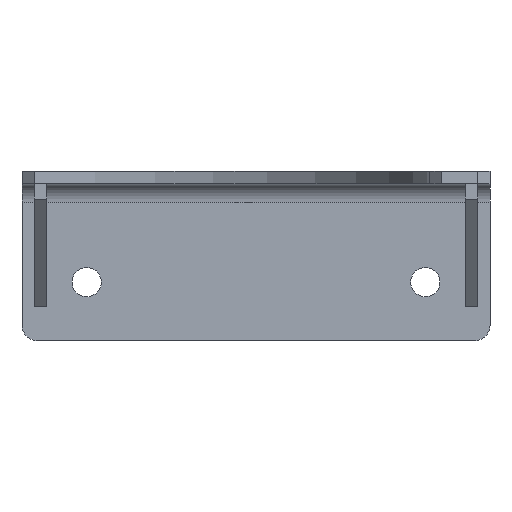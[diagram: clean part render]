
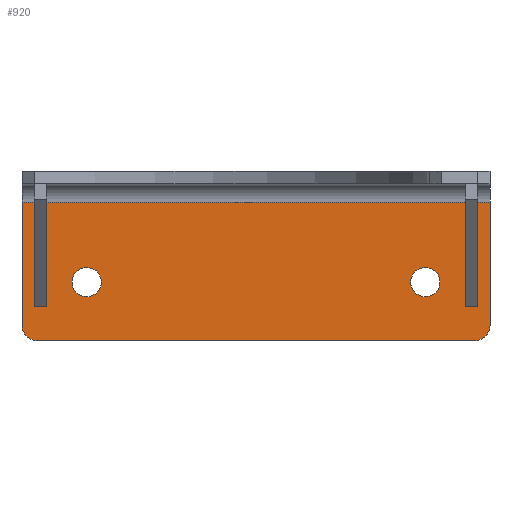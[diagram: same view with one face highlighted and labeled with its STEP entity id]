
A CAD part, front view. The second image highlights one B-rep face of the part: STEP entity #920.
In plain terms, the highlighted planar face has unit normal (0, -1, 0).
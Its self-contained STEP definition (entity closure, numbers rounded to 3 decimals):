
#156=FACE_BOUND('',#246,.T.);
#157=FACE_BOUND('',#247,.T.);
#168=PLANE('',#996);
#200=FACE_OUTER_BOUND('',#245,.T.);
#245=EDGE_LOOP('',(#705,#706,#707,#708,#709,#710));
#246=EDGE_LOOP('',(#711));
#247=EDGE_LOOP('',(#712));
#298=LINE('',#1333,#383);
#304=LINE('',#1355,#389);
#306=LINE('',#1363,#391);
#307=LINE('',#1366,#392);
#383=VECTOR('',#1080,10.);
#389=VECTOR('',#1100,10.);
#391=VECTOR('',#1108,10.);
#392=VECTOR('',#1111,10.);
#472=CIRCLE('',#997,5.);
#473=CIRCLE('',#998,5.);
#474=CIRCLE('',#999,4.75);
#475=CIRCLE('',#1000,4.75);
#501=VERTEX_POINT('',#1330);
#502=VERTEX_POINT('',#1332);
#511=VERTEX_POINT('',#1354);
#513=VERTEX_POINT('',#1360);
#514=VERTEX_POINT('',#1362);
#515=VERTEX_POINT('',#1364);
#516=VERTEX_POINT('',#1367);
#517=VERTEX_POINT('',#1369);
#576=EDGE_CURVE('',#501,#502,#298,.T.);
#587=EDGE_CURVE('',#502,#511,#304,.T.);
#590=EDGE_CURVE('',#513,#501,#472,.T.);
#591=EDGE_CURVE('',#514,#513,#306,.T.);
#592=EDGE_CURVE('',#515,#514,#473,.T.);
#593=EDGE_CURVE('',#511,#515,#307,.T.);
#594=EDGE_CURVE('',#516,#516,#474,.T.);
#595=EDGE_CURVE('',#517,#517,#475,.T.);
#705=ORIENTED_EDGE('',*,*,#587,.F.);
#706=ORIENTED_EDGE('',*,*,#576,.F.);
#707=ORIENTED_EDGE('',*,*,#590,.F.);
#708=ORIENTED_EDGE('',*,*,#591,.F.);
#709=ORIENTED_EDGE('',*,*,#592,.F.);
#710=ORIENTED_EDGE('',*,*,#593,.F.);
#711=ORIENTED_EDGE('',*,*,#594,.T.);
#712=ORIENTED_EDGE('',*,*,#595,.T.);
#920=ADVANCED_FACE('',(#200,#156,#157),#168,.F.);
#996=AXIS2_PLACEMENT_3D('',#1359,#1104,#1105);
#997=AXIS2_PLACEMENT_3D('',#1361,#1106,#1107);
#998=AXIS2_PLACEMENT_3D('',#1365,#1109,#1110);
#999=AXIS2_PLACEMENT_3D('',#1368,#1112,#1113);
#1000=AXIS2_PLACEMENT_3D('',#1370,#1114,#1115);
#1080=DIRECTION('',(0.,0.,1.));
#1100=DIRECTION('',(1.,0.,0.));
#1104=DIRECTION('center_axis',(0.,1.,0.));
#1105=DIRECTION('ref_axis',(0.,0.,1.));
#1106=DIRECTION('center_axis',(0.,1.,0.));
#1107=DIRECTION('ref_axis',(0.,0.,-1.));
#1108=DIRECTION('',(-1.,0.,0.));
#1109=DIRECTION('center_axis',(0.,1.,0.));
#1110=DIRECTION('ref_axis',(1.,0.,0.));
#1111=DIRECTION('',(0.,0.,-1.));
#1112=DIRECTION('center_axis',(0.,1.,0.));
#1113=DIRECTION('ref_axis',(-1.,0.,0.));
#1114=DIRECTION('center_axis',(0.,1.,0.));
#1115=DIRECTION('ref_axis',(-1.,0.,0.));
#1330=CARTESIAN_POINT('',(-20.,0.,-46.));
#1332=CARTESIAN_POINT('',(-20.,0.,-6.));
#1333=CARTESIAN_POINT('',(-20.,0.,-46.));
#1354=CARTESIAN_POINT('',(132.,0.,-6.));
#1355=CARTESIAN_POINT('',(28.,0.,-6.));
#1359=CARTESIAN_POINT('Origin',(56.,0.,-23.5));
#1360=CARTESIAN_POINT('',(-15.,0.,-51.));
#1361=CARTESIAN_POINT('Origin',(-15.,0.,-46.));
#1362=CARTESIAN_POINT('',(127.,0.,-51.));
#1363=CARTESIAN_POINT('',(127.,0.,-51.));
#1364=CARTESIAN_POINT('',(132.,0.,-46.));
#1365=CARTESIAN_POINT('Origin',(127.,0.,-46.));
#1366=CARTESIAN_POINT('',(132.,0.,4.));
#1367=CARTESIAN_POINT('',(5.75,0.,-32.));
#1368=CARTESIAN_POINT('Origin',(1.,0.,-32.));
#1369=CARTESIAN_POINT('',(115.75,0.,-32.));
#1370=CARTESIAN_POINT('Origin',(111.,0.,-32.));
